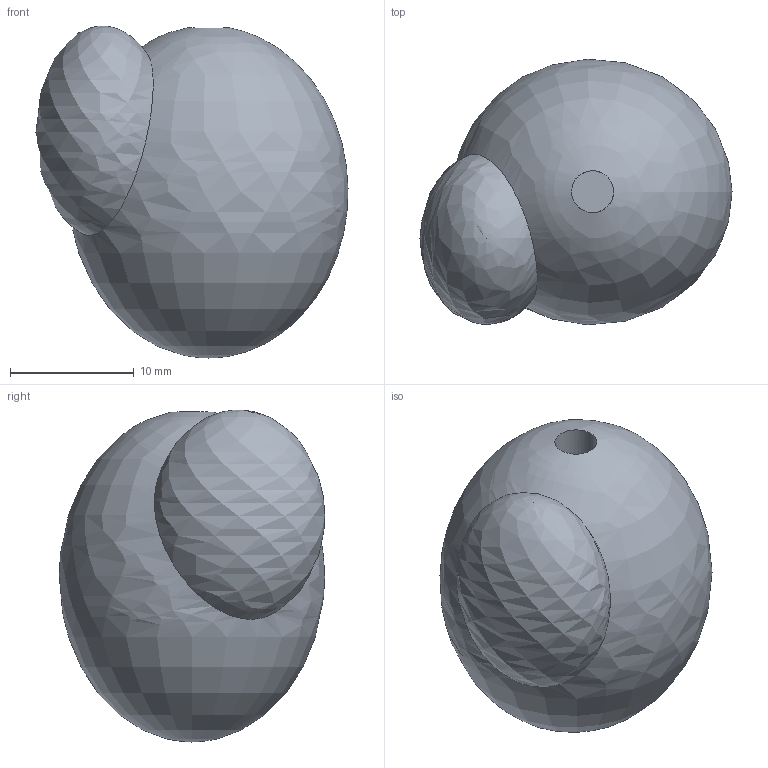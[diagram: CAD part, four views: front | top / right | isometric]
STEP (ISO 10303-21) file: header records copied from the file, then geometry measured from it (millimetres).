
FILE_DESCRIPTION(('FreeCAD Model'),'2;1');
FILE_NAME('Open CASCADE Shape Model','2026-11-20T08:25:38',('FreeCAD'),( 'FreeCAD'),'Open CASCADE STEP processor 7.8','FreeCAD','Unknown');
FILE_SCHEMA(('AUTOMOTIVE_DESIGN { 1 0 10303 214 1 1 1 1 }'));
Length unit declared in the file: millimetre
Products named in the file (1): Open CASCADE STEP translator 7.8 31
Bounding box: 25.26 x 21.49 x 26.88 mm (x, y, z)
Volume: 4910.6 mm3; surface area: 2902.3 mm2
Topology: 1 solids, 2 shells, 5 faces, 11 edges, 7 vertices
Faces by surface type: bspline 3, cylinder 1, plane 1
Full cylindrical faces by diameter (mm): 3.4 x1
Entity records: 620 total; most frequent: CARTESIAN_POINT 543, ORIENTED_EDGE 12, DIRECTION 9, FACE_BOUND 6, EDGE_CURVE 6, VERTEX_POINT 6, ADVANCED_FACE 5, EDGE_LOOP 5
